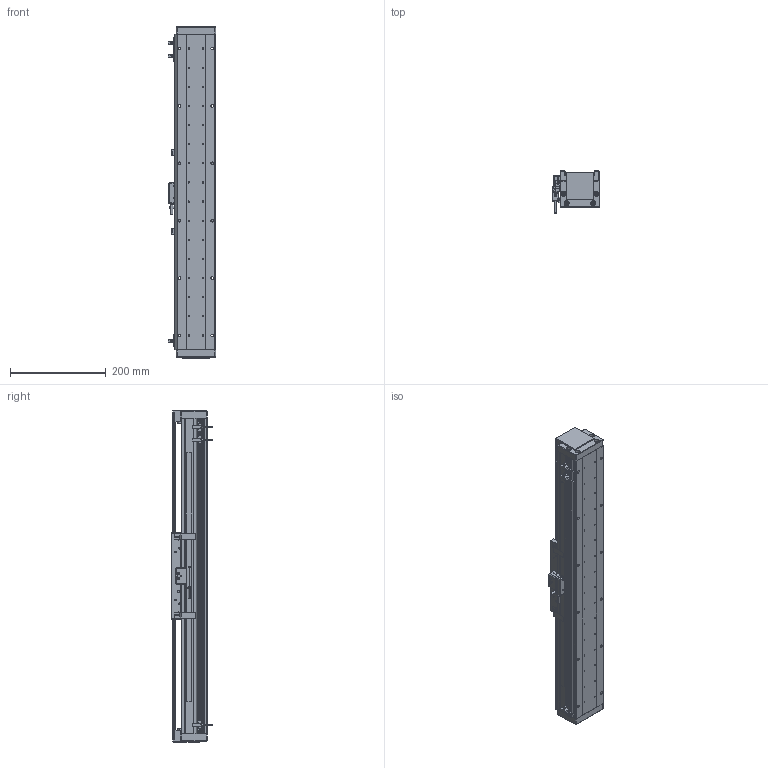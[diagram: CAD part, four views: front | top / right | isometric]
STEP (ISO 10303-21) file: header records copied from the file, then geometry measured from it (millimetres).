
FILE_DESCRIPTION (( 'STEP AP203' ), '1' );
FILE_NAME ('DA-A82-B2-T440-C010-0.2 眻盄萇儂.STEP', '2025-08-13T03:03:59', ( '' ), ( '' ), 'SwSTEP 2.0', 'SolidWorks 2019', '' );
FILE_SCHEMA (( 'CONFIG_CONTROL_DESIGN' ));
Length unit declared in the file: millimetre
Products named in the file (21): DA-A82-B2-T440-C010-0.2 眻盄萇儂; AU82-HT-M-00 賑雄怢啣; IU-AU82-L-00 菁釱(L660); AU82-M 幗紩賑怢; AU82-M-00 珨极趙賑雄怢啣; 复件 DA95-GT-T-00 底座钢轨^IU-AU82-L 底座导轨; 复件 复件 DA82-XJ-00 缓冲橡胶^DA-A82-B2-T-C010-0.2; 复件 DA95-B2-GT-00 滑块钢轨^AU82-M-00 一体化滑动台板; 葩璃 XD-U-02  棠掑喜^DA-A82-B2-T-C010-0.2; 葩璃 DMT-010 1米m 0.2M^DA-A82-B2-T-C010-0.2; 复件 DA82-DG-H-N-00 端盖^DA-A82-B2-T-C010-0.2(默认_按加工_); 葩璃 DA82-B2-DP-00 結え^AU82-M 幗紩賑怢; 葩璃 鞠褒情蹟譫 M3^DA-A82-B2-T-C010-0.2; ｸｴｼ BKM02-W040-C1-TP-DA-3.0 ﾖｱﾏﾟｵ扈巐ｯﾗﾓ^DA-A82-B2-T-C010-0.2; 葩璃 BKM01-W040-TRL^DA-A82-B2-T-C010-0.2; 葩璃 PM-T45^DA-A82-B2-T-C010-0.2; DA-A60-GYP-DMT-00 光电感应片^DA-A82-B2-T-C010-0.2(默认); IU-AU82-L 菁釱絳寢; 复件 纯铜油杯 6x6mm^AU82-M 滚珠滑台; 葩璃 DA60-DMT-DTJ-00 黍杅芛盓殤^DA-A82-B2-T-C010-0.2; 葩璃 DA82-T-002-00 裔啣^DA-A82-B2-T-C010-0.2
Assembly tree (36 placements, depth 4):
  DA-A82-B2-T440-C010-0.2 眻盄萇儂
    IU-AU82-L 菁釱絳寢
      IU-AU82-L-00 菁釱(L660)
      复件 DA95-GT-T-00 底座钢轨^IU-AU82-L 底座导轨  x2
    AU82-M 幗紩賑怢
      AU82-M-00 珨极趙賑雄怢啣
        AU82-HT-M-00 賑雄怢啣
        复件 DA95-B2-GT-00 滑块钢轨^AU82-M-00 一体化滑动台板  x4
      葩璃 DA82-B2-DP-00 結え^AU82-M 幗紩賑怢  x2
      复件 纯铜油杯 6x6mm^AU82-M 滚珠滑台  x2
    葩璃 DA60-DMT-DTJ-00 黍杅芛盓殤^DA-A82-B2-T-C010-0.2
    葩璃 DMT-010 1米m 0.2M^DA-A82-B2-T-C010-0.2
    DA-A60-GYP-DMT-00 光电感应片^DA-A82-B2-T-C010-0.2(默认)  x2
    ｸｴｼ BKM02-W040-C1-TP-DA-3.0 ﾖｱﾏﾟｵ扈巐ｯﾗﾓ^DA-A82-B2-T-C010-0.2
    复件 复件 DA82-XJ-00 缓冲橡胶^DA-A82-B2-T-C010-0.2  x2
    复件 DA82-DG-H-N-00 端盖^DA-A82-B2-T-C010-0.2(默认_按加工_)  x2
    葩璃 DA82-T-002-00 裔啣^DA-A82-B2-T-C010-0.2
    葩璃 BKM01-W040-TRL^DA-A82-B2-T-C010-0.2
    葩璃 PM-T45^DA-A82-B2-T-C010-0.2  x3
    葩璃 XD-U-02  棠掑喜^DA-A82-B2-T-C010-0.2
    葩璃 鞠褒情蹟譫 M3^DA-A82-B2-T-C010-0.2  x6
Bounding box: 98.95 x 87.2 x 694 mm (x, y, z)
Volume: 2411884.7 mm3; surface area: 684919.5 mm2
Topology: 40 solids, 64 shells, 1959 faces, 5074 edges, 3148 vertices
Faces by surface type: cylinder 867, plane 784, cone 252, torus 38, bspline 12, sphere 6
Entity records: 50689 total; most frequent: CARTESIAN_POINT 10945, DIRECTION 7990, ORIENTED_EDGE 7470, EDGE_CURVE 3735, AXIS2_PLACEMENT_3D 2996, VERTEX_POINT 2415, VECTOR 1998, LINE 1998
